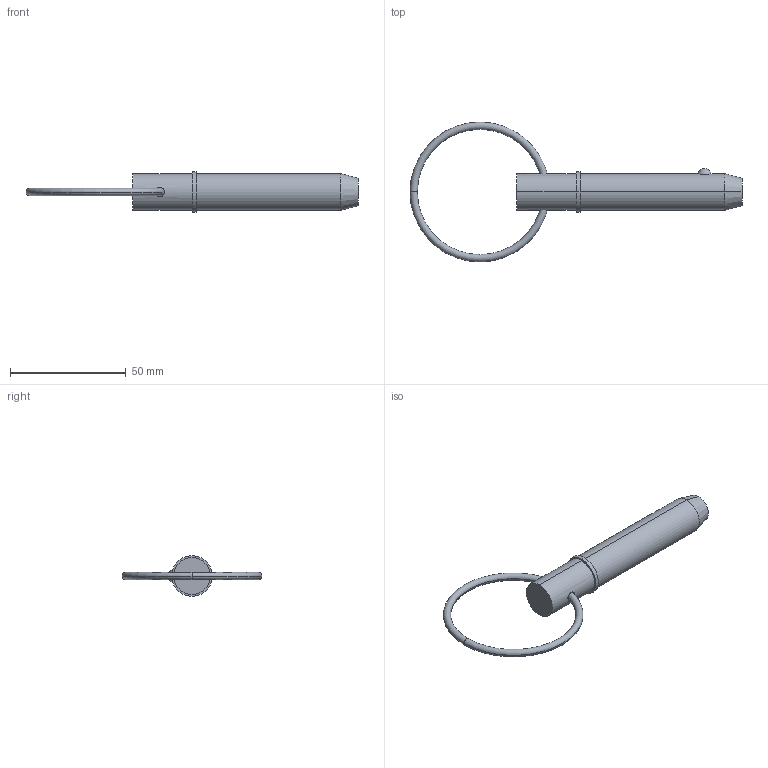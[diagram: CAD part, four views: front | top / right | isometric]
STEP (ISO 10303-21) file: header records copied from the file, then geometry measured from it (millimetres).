
FILE_DESCRIPTION (( 'STEP AP203' ), '1' );
FILE_NAME ('33014.W6220.step', '2024-11-04T08:33:27', ( '' ), ( '' ), 'SwSTEP 2.0', 'SolidWorks 2019', '' );
FILE_SCHEMA (( 'CONFIG_CONTROL_DESIGN' ));
Length unit declared in the file: millimetre
Products named in the file (3): Part1_33014.W6220; Part2_33014.W6220; 33014.W6220
Assembly tree (2 placements, depth 2):
  33014.W6220
    Part1_33014.W6220
    Part2_33014.W6220
Bounding box: 143.18 x 60.33 x 17.47 mm (x, y, z)
Volume: 20233.7 mm3; surface area: 7194 mm2
Topology: 2 solids, 2 shells, 22 faces, 43 edges, 26 vertices
Faces by surface type: torus 8, cylinder 6, plane 4, sphere 2, cone 2
Entity records: 1047 total; most frequent: CARTESIAN_POINT 270, DIRECTION 120, ORIENTED_EDGE 86, AXIS2_PLACEMENT_3D 56, EDGE_CURVE 43, CIRCLE 29, EDGE_LOOP 27, PERSON_AND_ORGANIZATION 26
